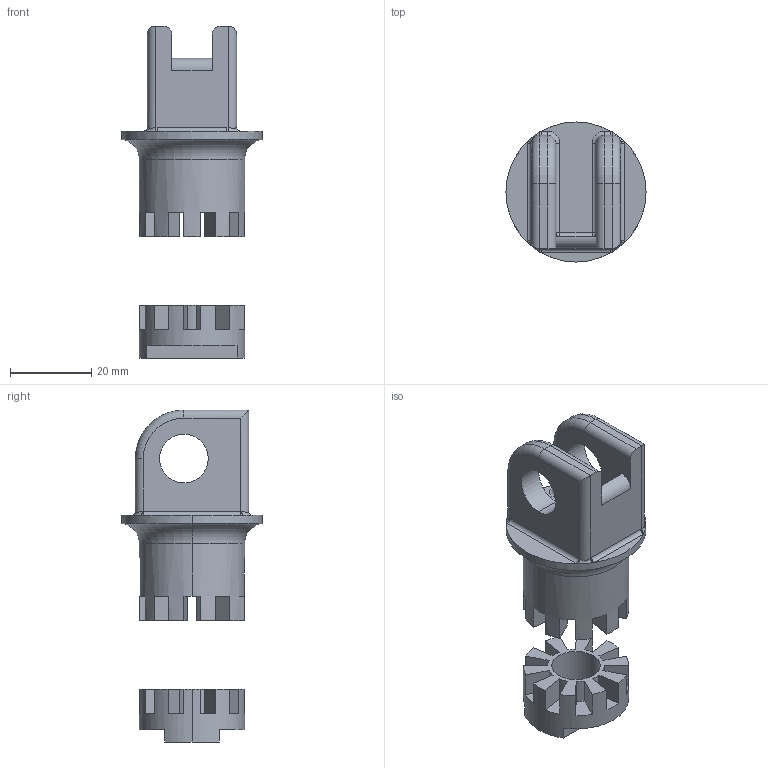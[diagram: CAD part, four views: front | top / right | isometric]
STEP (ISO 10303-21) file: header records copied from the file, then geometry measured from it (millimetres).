
FILE_DESCRIPTION (( 'STEP AP214' ), '1' );
FILE_NAME ('Äåòàëü2 - çàöåï2.STEP', '2025-09-17T10:52:11', ( '' ), ( '' ), 'SwSTEP 2.0', 'SolidWorks 2024', '' );
FILE_SCHEMA (( 'AUTOMOTIVE_DESIGN' ));
Length unit declared in the file: millimetre
Products named in the file (1): Деталь2 - зацеп2
Bounding box: 34.56 x 34.56 x 81.94 mm (x, y, z)
Volume: 22938.6 mm3; surface area: 11559.5 mm2
Topology: 2 solids, 2 shells, 193 faces, 521 edges, 331 vertices
Faces by surface type: cylinder 85, plane 83, torus 12, bspline 11, sphere 2
Entity records: 8384 total; most frequent: CARTESIAN_POINT 3599, ORIENTED_EDGE 1038, DIRECTION 994, EDGE_CURVE 519, AXIS2_PLACEMENT_3D 367, VERTEX_POINT 331, LINE 260, VECTOR 260
